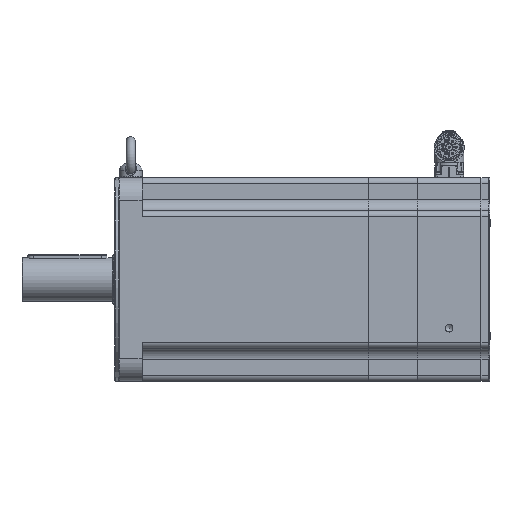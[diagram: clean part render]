
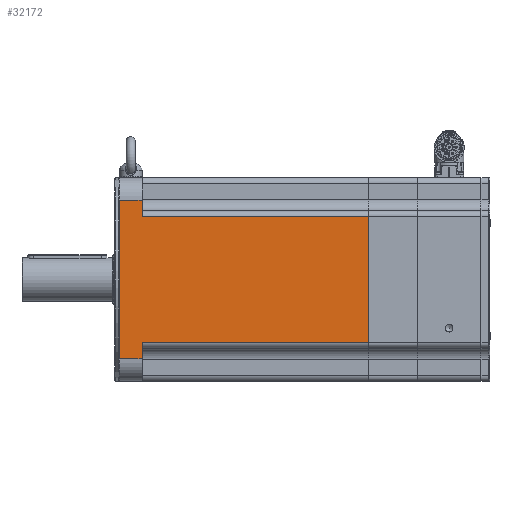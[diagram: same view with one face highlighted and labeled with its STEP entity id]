
A CAD part, left-side view. The second image highlights one B-rep face of the part: STEP entity #32172.
In plain terms, the highlighted planar face has unit normal (-1, 0, 0) as drawn and (1, 0, 0) by its records, which use the part's own axes.
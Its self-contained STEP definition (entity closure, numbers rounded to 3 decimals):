
#2270=PLANE('',#45770);
#10819=ORIENTED_EDGE('',*,*,#16599,.F.);
#10820=ORIENTED_EDGE('',*,*,#16665,.T.);
#10821=ORIENTED_EDGE('',*,*,#16633,.F.);
#10822=ORIENTED_EDGE('',*,*,#16666,.T.);
#10823=ORIENTED_EDGE('',*,*,#16667,.F.);
#10824=ORIENTED_EDGE('',*,*,#16668,.T.);
#10825=ORIENTED_EDGE('',*,*,#16653,.F.);
#10826=ORIENTED_EDGE('',*,*,#16669,.T.);
#16599=EDGE_CURVE('',#20183,#20184,#22769,.T.);
#16633=EDGE_CURVE('',#20217,#20218,#22783,.T.);
#16653=EDGE_CURVE('',#20237,#20238,#22790,.T.);
#16665=EDGE_CURVE('',#20183,#20218,#22798,.F.);
#16666=EDGE_CURVE('',#20217,#20245,#22799,.T.);
#16667=EDGE_CURVE('',#20246,#20245,#22800,.T.);
#16668=EDGE_CURVE('',#20246,#20238,#22801,.F.);
#16669=EDGE_CURVE('',#20237,#20184,#22802,.T.);
#20183=VERTEX_POINT('',#68738);
#20184=VERTEX_POINT('',#68740);
#20217=VERTEX_POINT('',#68813);
#20218=VERTEX_POINT('',#68815);
#20237=VERTEX_POINT('',#68860);
#20238=VERTEX_POINT('',#68861);
#20245=VERTEX_POINT('',#68885);
#20246=VERTEX_POINT('',#68887);
#22769=LINE('',#68739,#24941);
#22783=LINE('',#68814,#24955);
#22790=LINE('',#68859,#24962);
#22798=LINE('',#68883,#24970);
#22799=LINE('',#68884,#24971);
#22800=LINE('',#68886,#24972);
#22801=LINE('',#68888,#24973);
#22802=LINE('',#68889,#24974);
#24941=VECTOR('',#53378,1000.);
#24955=VECTOR('',#53446,1000.);
#24962=VECTOR('',#53491,1000.);
#24970=VECTOR('',#53515,1000.);
#24971=VECTOR('',#53516,1000.);
#24972=VECTOR('',#53517,1000.);
#24973=VECTOR('',#53518,1000.);
#24974=VECTOR('',#53519,1000.);
#27081=EDGE_LOOP('',(#10819,#10820,#10821,#10822,#10823,#10824,#10825,#10826));
#29537=FACE_BOUND('',#27081,.T.);
#32172=ADVANCED_FACE('',(#29537),#2270,.T.);
#45770=AXIS2_PLACEMENT_3D('',#68882,#53513,#53514);
#53378=DIRECTION('',(0.,0.,-1.));
#53446=DIRECTION('',(0.,0.,-1.));
#53491=DIRECTION('',(0.,0.,-1.));
#53513=DIRECTION('',(1.,0.,0.));
#53514=DIRECTION('',(0.,1.,0.));
#53515=DIRECTION('',(0.,1.,0.));
#53516=DIRECTION('',(0.,-1.,0.));
#53517=DIRECTION('',(0.,0.,1.));
#53518=DIRECTION('',(0.,-1.,0.));
#53519=DIRECTION('',(0.,1.,0.));
#68738=CARTESIAN_POINT('',(90.,220.8,55.2));
#68739=CARTESIAN_POINT('',(90.,220.8,-90.));
#68740=CARTESIAN_POINT('',(90.,220.8,-55.2));
#68813=CARTESIAN_POINT('',(90.,21.3,70.));
#68814=CARTESIAN_POINT('',(90.,21.3,-90.));
#68815=CARTESIAN_POINT('',(90.,21.3,55.2));
#68859=CARTESIAN_POINT('',(90.,21.3,-90.));
#68860=CARTESIAN_POINT('',(90.,21.3,-55.2));
#68861=CARTESIAN_POINT('',(90.,21.3,-70.));
#68882=CARTESIAN_POINT('',(90.,488.463,-90.));
#68883=CARTESIAN_POINT('',(90.,488.463,55.2));
#68884=CARTESIAN_POINT('',(90.,488.463,70.));
#68885=CARTESIAN_POINT('',(90.,1.3,70.));
#68886=CARTESIAN_POINT('',(90.,1.3,-90.));
#68887=CARTESIAN_POINT('',(90.,1.3,-70.));
#68888=CARTESIAN_POINT('',(90.,488.463,-70.));
#68889=CARTESIAN_POINT('',(90.,488.463,-55.2));
